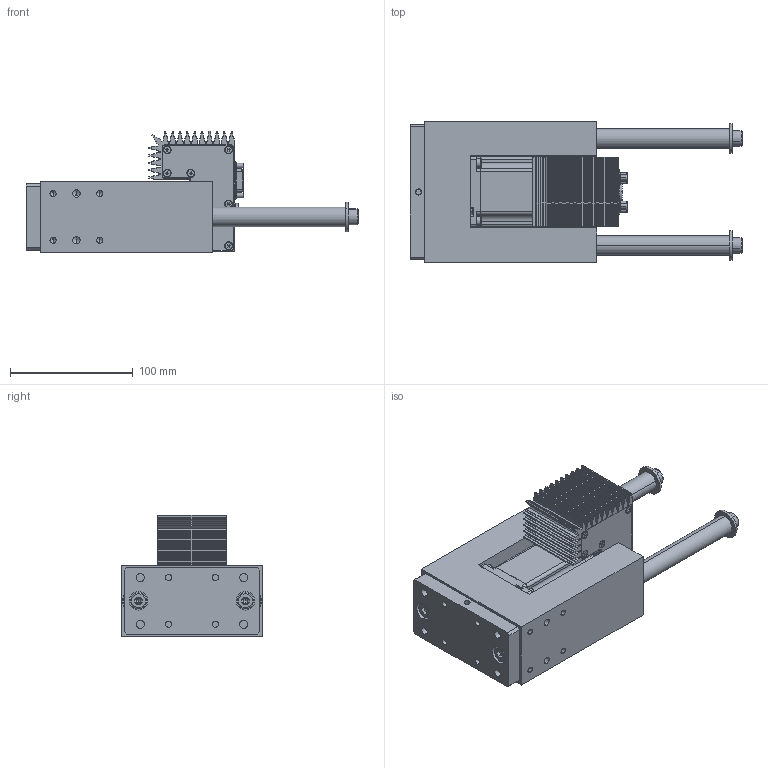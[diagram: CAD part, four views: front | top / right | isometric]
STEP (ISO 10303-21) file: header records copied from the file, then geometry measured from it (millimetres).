
FILE_DESCRIPTION (( 'STEP AP214' ), '1' );
FILE_NAME ('FE23_0004_V00_HUB-100.stp', '2022-03-11T10:46:29', ( '' ), ( '' ), 'SwSTEP 2.0', 'SolidWorks 2020', '' );
FILE_SCHEMA (( 'AUTOMOTIVE_DESIGN' ));
Length unit declared in the file: millimetre
Products named in the file (20): plain washer large_din_Washer DIN 9021 - 8.4; socket set screw cone point_din_DIN 914 - M4 x 5-N; FE00_0003_V00_HUB-100; FE00_0005_V00; socket head cap screw_din_DIN 912 M4 x 16 --- 16N; FE00_0002_V00_HUB-100; spring pin slotted_hd_din_DIN EN 28752 - 2.5 x 16 - St; FE00_0006_V00; socket head cap screw_din_DIN 912 M8 x 16 --- 16N; socket thin pilot cap screw_din_DIN 6912 - M8 x 20 --- 13N; C300_axial_SubD_Mit Verschlusskappe; socket set screw cone point_din_DIN 914 - M6 x 12-N; INA_Axial-Rillenkugellager-51104_31_104; FE00_0004_V00; FE23_0001_V00_HUB-100; FE23_0004_V00_HUB-100; parallel pin hardened_din_DIN EN 28734 - 3 x 12 - A - St; INA-FAG_KH16-PP; Kollmorgen_NEMA23_CTP22NSF3INSS02_mit Gewinde; FE00_0001_V00
Assembly tree (33 placements, depth 3):
  FE23_0004_V00_HUB-100
    FE23_0001_V00_HUB-100
      FE00_0002_V00_HUB-100
      FE00_0003_V00_HUB-100  x2
      FE00_0001_V00
      FE00_0004_V00
      FE00_0005_V00
      FE00_0006_V00
      INA-FAG_KH16-PP  x4
      socket thin pilot cap screw_din_DIN 6912 - M8 x 20 --- 13N  x2
      INA_Axial-Rillenkugellager-51104_31_104  x2
      parallel pin hardened_din_DIN EN 28734 - 3 x 12 - A - St  x3
      socket set screw cone point_din_DIN 914 - M4 x 5-N
      spring pin slotted_hd_din_DIN EN 28752 - 2.5 x 16 - St
      socket set screw cone point_din_DIN 914 - M6 x 12-N  x2
      plain washer large_din_Washer DIN 9021 - 8.4  x2
      socket head cap screw_din_DIN 912 M8 x 16 --- 16N  x2
    Kollmorgen_NEMA23_CTP22NSF3INSS02_mit Gewinde
    C300_axial_SubD_Mit Verschlusskappe
    socket head cap screw_din_DIN 912 M4 x 16 --- 16N  x4
Bounding box: 270 x 115 x 98.5 mm (x, y, z)
Volume: 1157912.4 mm3; surface area: 300457.6 mm2
Topology: 63 solids, 64 shells, 2430 faces, 5971 edges, 3612 vertices
Faces by surface type: plane 1058, cylinder 711, cone 331, bspline 188, torus 142
Entity records: 78908 total; most frequent: CARTESIAN_POINT 17044, DIRECTION 9924, ORIENTED_EDGE 9388, EDGE_CURVE 4694, AXIS2_PLACEMENT_3D 3625, VERTEX_POINT 2969, LINE 2674, VECTOR 2674
